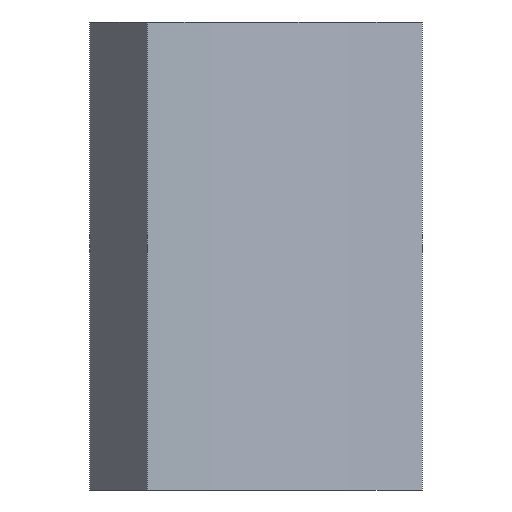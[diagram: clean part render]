
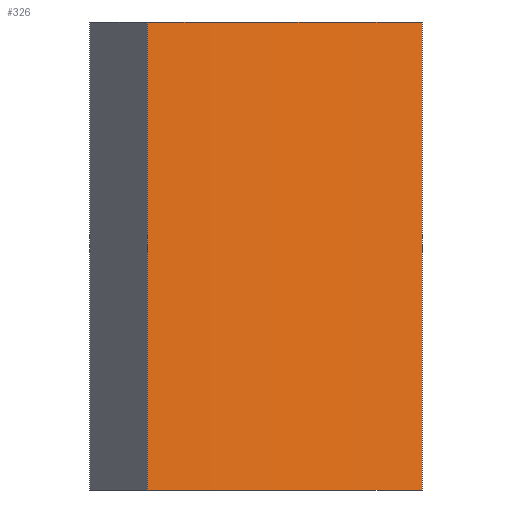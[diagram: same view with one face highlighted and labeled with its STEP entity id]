
A CAD part, left-side view. The second image highlights one B-rep face of the part: STEP entity #326.
In plain terms, the highlighted cylindrical face has radius 6.75 mm (diameter 13.5 mm), a partial arc.
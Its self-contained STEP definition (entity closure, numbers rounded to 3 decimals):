
#45 = PLANE('',#46);
#46 = AXIS2_PLACEMENT_3D('',#47,#48,#49);
#47 = CARTESIAN_POINT('',(0.,0.,6.55));
#48 = DIRECTION('',(0.,0.,1.));
#49 = DIRECTION('',(1.,0.,-0.));
#72 = PLANE('',#73);
#73 = AXIS2_PLACEMENT_3D('',#74,#75,#76);
#74 = CARTESIAN_POINT('',(0.,0.,2.04));
#75 = DIRECTION('',(-0.228,0.974,0.));
#76 = DIRECTION('',(0.974,0.228,0.));
#100 = PLANE('',#101);
#101 = AXIS2_PLACEMENT_3D('',#102,#103,#104);
#102 = CARTESIAN_POINT('',(0.,0.,2.05));
#103 = DIRECTION('',(0.,0.,1.));
#104 = DIRECTION('',(1.,0.,-0.));
#125 = PLANE('',#126);
#126 = AXIS2_PLACEMENT_3D('',#127,#128,#129);
#127 = CARTESIAN_POINT('',(18.018,14.215,2.04));
#128 = DIRECTION('',(0.619,-0.785,0.));
#129 = DIRECTION('',(-0.785,-0.619,0.));
#140 = VERTEX_POINT('',#141);
#141 = CARTESIAN_POINT('',(6.573,1.536,6.55));
#162 = VERTEX_POINT('',#163);
#163 = CARTESIAN_POINT('',(5.299,4.181,6.55));
#182 = EDGE_CURVE('',#140,#162,#183,.T.);
#183 = SURFACE_CURVE('',#184,(#189,#196),.PCURVE_S1.);
#184 = CIRCLE('',#185,6.75);
#185 = AXIS2_PLACEMENT_3D('',#186,#187,#188);
#186 = CARTESIAN_POINT('',(0.,0.,6.55));
#187 = DIRECTION('',(0.,0.,1.));
#188 = DIRECTION('',(1.,0.,-0.));
#189 = PCURVE('',#45,#190);
#190 = DEFINITIONAL_REPRESENTATION('',(#191),#195);
#191 = CIRCLE('',#192,6.75);
#192 = AXIS2_PLACEMENT_2D('',#193,#194);
#193 = CARTESIAN_POINT('',(0.,0.));
#194 = DIRECTION('',(1.,0.));
#195 = ( GEOMETRIC_REPRESENTATION_CONTEXT(2) 
PARAMETRIC_REPRESENTATION_CONTEXT() REPRESENTATION_CONTEXT('2D SPACE',''
  ) );
#196 = PCURVE('',#197,#202);
#197 = CYLINDRICAL_SURFACE('',#198,6.75);
#198 = AXIS2_PLACEMENT_3D('',#199,#200,#201);
#199 = CARTESIAN_POINT('',(0.,0.,2.04));
#200 = DIRECTION('',(0.,0.,1.));
#201 = DIRECTION('',(1.,0.,-0.));
#202 = DEFINITIONAL_REPRESENTATION('',(#203),#207);
#203 = LINE('',#204,#205);
#204 = CARTESIAN_POINT('',(0.,4.51));
#205 = VECTOR('',#206,1.);
#206 = DIRECTION('',(1.,0.));
#207 = ( GEOMETRIC_REPRESENTATION_CONTEXT(2) 
PARAMETRIC_REPRESENTATION_CONTEXT() REPRESENTATION_CONTEXT('2D SPACE',''
  ) );
#213 = VERTEX_POINT('',#214);
#214 = CARTESIAN_POINT('',(5.299,4.181,2.05));
#235 = EDGE_CURVE('',#213,#162,#236,.T.);
#236 = SURFACE_CURVE('',#237,(#241,#247),.PCURVE_S1.);
#237 = LINE('',#238,#239);
#238 = CARTESIAN_POINT('',(5.299,4.181,2.04));
#239 = VECTOR('',#240,1.);
#240 = DIRECTION('',(0.,0.,1.));
#241 = PCURVE('',#125,#242);
#242 = DEFINITIONAL_REPRESENTATION('',(#243),#246);
#243 = B_SPLINE_CURVE_WITH_KNOTS('',1,(#244,#245),.UNSPECIFIED.,.F.,.F.,
  (2,2),(0.01,4.51),.PIECEWISE_BEZIER_KNOTS.);
#244 = CARTESIAN_POINT('',(16.2,-0.01));
#245 = CARTESIAN_POINT('',(16.2,-4.51));
#246 = ( GEOMETRIC_REPRESENTATION_CONTEXT(2) 
PARAMETRIC_REPRESENTATION_CONTEXT() REPRESENTATION_CONTEXT('2D SPACE',''
  ) );
#247 = PCURVE('',#197,#248);
#248 = DEFINITIONAL_REPRESENTATION('',(#249),#252);
#249 = B_SPLINE_CURVE_WITH_KNOTS('',1,(#250,#251),.UNSPECIFIED.,.F.,.F.,
  (2,2),(0.01,4.51),.PIECEWISE_BEZIER_KNOTS.);
#250 = CARTESIAN_POINT('',(0.668,0.01));
#251 = CARTESIAN_POINT('',(0.668,4.51));
#252 = ( GEOMETRIC_REPRESENTATION_CONTEXT(2) 
PARAMETRIC_REPRESENTATION_CONTEXT() REPRESENTATION_CONTEXT('2D SPACE',''
  ) );
#258 = VERTEX_POINT('',#259);
#259 = CARTESIAN_POINT('',(6.573,1.536,2.05));
#280 = EDGE_CURVE('',#258,#213,#281,.T.);
#281 = SURFACE_CURVE('',#282,(#287,#294),.PCURVE_S1.);
#282 = CIRCLE('',#283,6.75);
#283 = AXIS2_PLACEMENT_3D('',#284,#285,#286);
#284 = CARTESIAN_POINT('',(0.,0.,2.05));
#285 = DIRECTION('',(0.,0.,1.));
#286 = DIRECTION('',(1.,0.,-0.));
#287 = PCURVE('',#100,#288);
#288 = DEFINITIONAL_REPRESENTATION('',(#289),#293);
#289 = CIRCLE('',#290,6.75);
#290 = AXIS2_PLACEMENT_2D('',#291,#292);
#291 = CARTESIAN_POINT('',(0.,0.));
#292 = DIRECTION('',(1.,0.));
#293 = ( GEOMETRIC_REPRESENTATION_CONTEXT(2) 
PARAMETRIC_REPRESENTATION_CONTEXT() REPRESENTATION_CONTEXT('2D SPACE',''
  ) );
#294 = PCURVE('',#197,#295);
#295 = DEFINITIONAL_REPRESENTATION('',(#296),#300);
#296 = LINE('',#297,#298);
#297 = CARTESIAN_POINT('',(0.,0.01));
#298 = VECTOR('',#299,1.);
#299 = DIRECTION('',(1.,0.));
#300 = ( GEOMETRIC_REPRESENTATION_CONTEXT(2) 
PARAMETRIC_REPRESENTATION_CONTEXT() REPRESENTATION_CONTEXT('2D SPACE',''
  ) );
#307 = EDGE_CURVE('',#258,#140,#308,.T.);
#308 = SURFACE_CURVE('',#309,(#313,#319),.PCURVE_S1.);
#309 = LINE('',#310,#311);
#310 = CARTESIAN_POINT('',(6.573,1.536,2.04));
#311 = VECTOR('',#312,1.);
#312 = DIRECTION('',(0.,0.,1.));
#313 = PCURVE('',#72,#314);
#314 = DEFINITIONAL_REPRESENTATION('',(#315),#318);
#315 = B_SPLINE_CURVE_WITH_KNOTS('',1,(#316,#317),.UNSPECIFIED.,.F.,.F.,
  (2,2),(0.01,4.51),.PIECEWISE_BEZIER_KNOTS.);
#316 = CARTESIAN_POINT('',(6.75,-0.01));
#317 = CARTESIAN_POINT('',(6.75,-4.51));
#318 = ( GEOMETRIC_REPRESENTATION_CONTEXT(2) 
PARAMETRIC_REPRESENTATION_CONTEXT() REPRESENTATION_CONTEXT('2D SPACE',''
  ) );
#319 = PCURVE('',#197,#320);
#320 = DEFINITIONAL_REPRESENTATION('',(#321),#324);
#321 = B_SPLINE_CURVE_WITH_KNOTS('',1,(#322,#323),.UNSPECIFIED.,.F.,.F.,
  (2,2),(0.01,4.51),.PIECEWISE_BEZIER_KNOTS.);
#322 = CARTESIAN_POINT('',(0.23,0.01));
#323 = CARTESIAN_POINT('',(0.23,4.51));
#324 = ( GEOMETRIC_REPRESENTATION_CONTEXT(2) 
PARAMETRIC_REPRESENTATION_CONTEXT() REPRESENTATION_CONTEXT('2D SPACE',''
  ) );
#326 = ADVANCED_FACE('',(#327),#197,.F.);
#327 = FACE_BOUND('',#328,.F.);
#328 = EDGE_LOOP('',(#329,#330,#331,#332));
#329 = ORIENTED_EDGE('',*,*,#182,.F.);
#330 = ORIENTED_EDGE('',*,*,#307,.F.);
#331 = ORIENTED_EDGE('',*,*,#280,.T.);
#332 = ORIENTED_EDGE('',*,*,#235,.T.);
